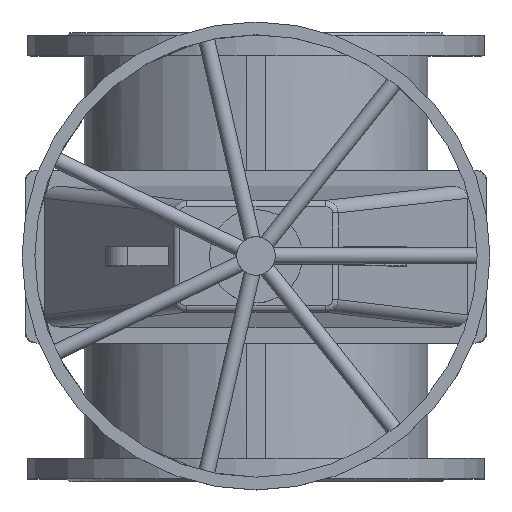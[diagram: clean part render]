
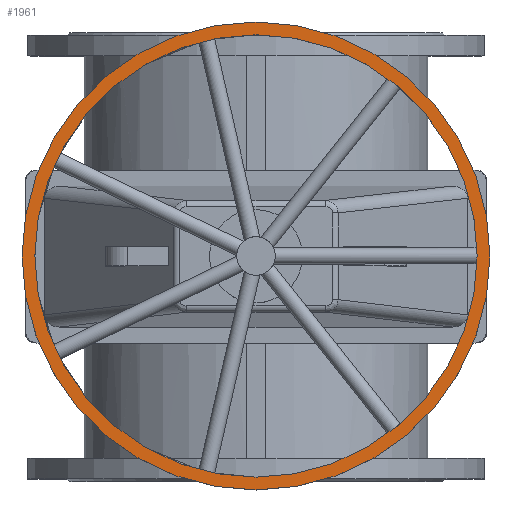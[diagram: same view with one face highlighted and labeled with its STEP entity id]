
A CAD part, top view. The second image highlights one B-rep face of the part: STEP entity #1961.
In plain terms, the highlighted planar face has unit normal (0, 0, 1).
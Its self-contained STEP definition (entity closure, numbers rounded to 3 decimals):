
#1961=ADVANCED_FACE('',(#4900,#4902),#4904,.T.);
#4900=FACE_BOUND('',#4901,.T.);
#4901=EDGE_LOOP('',(#5905));
#4902=FACE_BOUND('',#4903,.T.);
#4903=EDGE_LOOP('',(#5906));
#4904=PLANE('',#4905);
#4905=AXIS2_PLACEMENT_3D('',#4906,#4907,#4908);
#4906=CARTESIAN_POINT('',(0.,0.,1113.5));
#4907=DIRECTION('',(0.,0.,1.));
#4908=DIRECTION('',(0.,-1.,0.));
#5905=ORIENTED_EDGE('',*,*,#6401,.T.);
#5906=ORIENTED_EDGE('',*,*,#6399,.T.);
#6399=EDGE_CURVE('',#7239,#7239,#7240,.F.);
#6401=EDGE_CURVE('',#7243,#7243,#7244,.T.);
#7239=VERTEX_POINT('',#11061);
#7240=CIRCLE('',#11062,345.);
#7243=VERTEX_POINT('',#11071);
#7244=CIRCLE('',#11072,365.);
#11061=CARTESIAN_POINT('',(0.,-345.,1113.5));
#11062=AXIS2_PLACEMENT_3D('',#11063,#11064,#11065);
#11063=CARTESIAN_POINT('',(0.,0.,1113.5));
#11064=DIRECTION('',(0.,0.,1.));
#11065=DIRECTION('',(0.,-1.,0.));
#11071=CARTESIAN_POINT('',(0.,-365.,1113.5));
#11072=AXIS2_PLACEMENT_3D('',#11073,#11074,#11075);
#11073=CARTESIAN_POINT('',(0.,0.,1113.5));
#11074=DIRECTION('',(0.,0.,1.));
#11075=DIRECTION('',(0.,-1.,0.));
